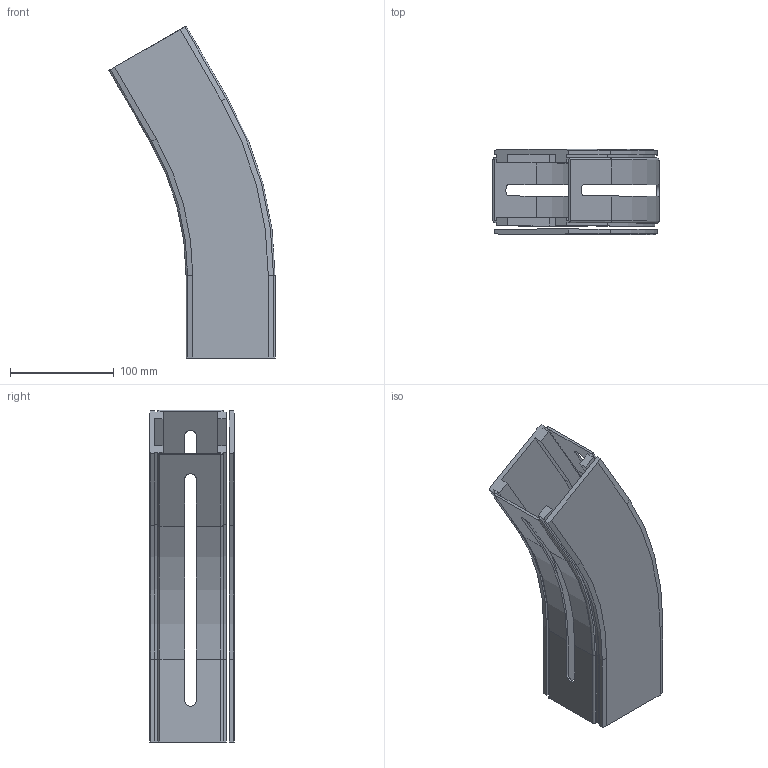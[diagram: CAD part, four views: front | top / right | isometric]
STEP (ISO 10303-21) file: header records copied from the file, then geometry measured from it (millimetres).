
FILE_DESCRIPTION((''),'2;1');
FILE_NAME('C:\Vault Klient\Projekt\Koncept konstruktion\Serie 530 Balk\530-5190.stp','2010-12-01T08:03:13',('Mathias'),(''),'Autodesk Inventor 2011','Autodesk Inventor 2011','');
FILE_SCHEMA(('AUTOMOTIVE_DESIGN { 1 0 10303 214 1 1 1 1 }'));
Length unit declared in the file: millimetre
Products named in the file (1): 530-5190
Bounding box: 160.43 x 82 x 320.78 mm (x, y, z)
Volume: 459342.5 mm3; surface area: 221704.1 mm2
Topology: 2 solids, 2 shells, 155 faces, 434 edges, 284 vertices
Faces by surface type: plane 97, cylinder 36, bspline 14, cone 4, torus 4
Entity records: 5130 total; most frequent: CARTESIAN_POINT 1068, ORIENTED_EDGE 868, DIRECTION 770, EDGE_CURVE 434, VECTOR 326, LINE 326, VERTEX_POINT 284, AXIS2_PLACEMENT_3D 222
